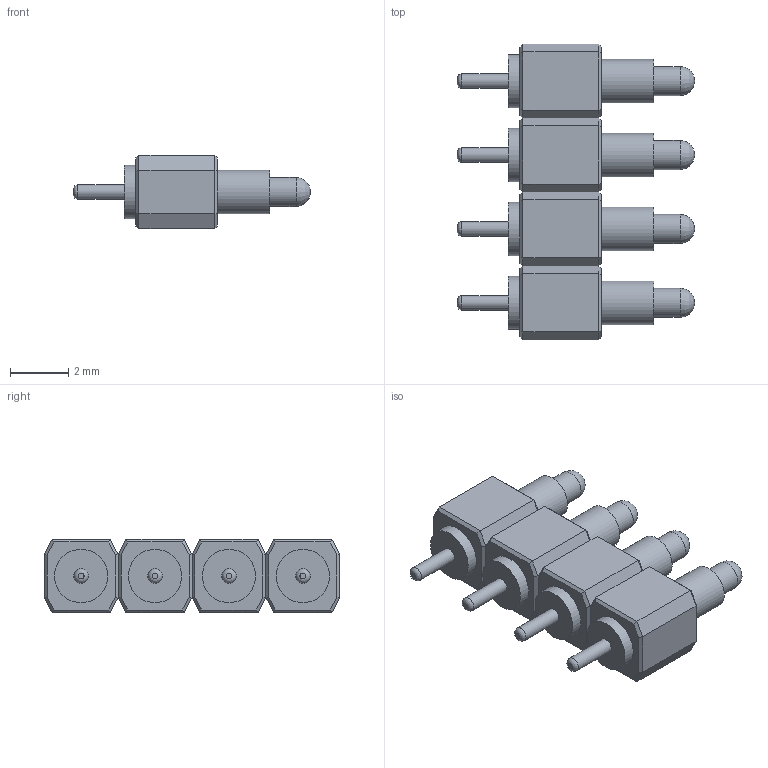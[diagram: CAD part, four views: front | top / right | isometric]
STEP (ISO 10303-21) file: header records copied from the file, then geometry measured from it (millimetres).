
FILE_DESCRIPTION(('FreeCAD Model'),'2;1');
FILE_NAME('Open CASCADE Shape Model','2024-10-25T12:05:26',('Author'),( ''),'Open CASCADE STEP processor 7.5','FreeCAD','Unknown');
FILE_SCHEMA(('AUTOMOTIVE_DESIGN { 1 0 10303 214 1 1 1 1 }'));
Length unit declared in the file: millimetre
Products named in the file (13): 816-22-004; P048; Body065; Contact033; P046; Body070; Contact035; P041; Body066; Contact034; P043; Body064; Contact041
Assembly tree (12 placements, depth 3):
  816-22-004
    P048
      Body065
      Contact033
    P046
      Body070
      Contact035
    P041
      Body066
      Contact034
    P043
      Body064
      Contact041
Bounding box: 8.15 x 10.16 x 2.54 mm (x, y, z)
Volume: 90.9 mm3; surface area: 330.1 mm2
Topology: 8 solids, 8 shells, 152 faces, 300 edges, 176 vertices
Faces by surface type: plane 124, cylinder 20, revolution 8
Full cylindrical faces by diameter (mm): 0.5 x4, 1 x4, 1.5 x8, 1.83 x4
Entity records: 8063 total; most frequent: CARTESIAN_POINT 1321, DIRECTION 1274, LINE 804, VECTOR 804, ORIENTED_EDGE 600, PCURVE 600, DEFINITIONAL_REPRESENTATION 600, EDGE_CURVE 300
